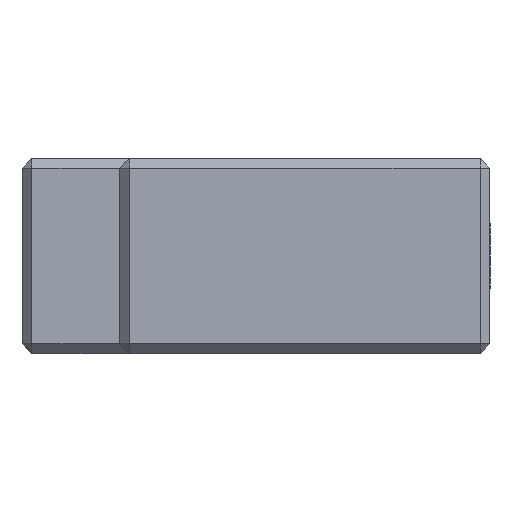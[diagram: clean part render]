
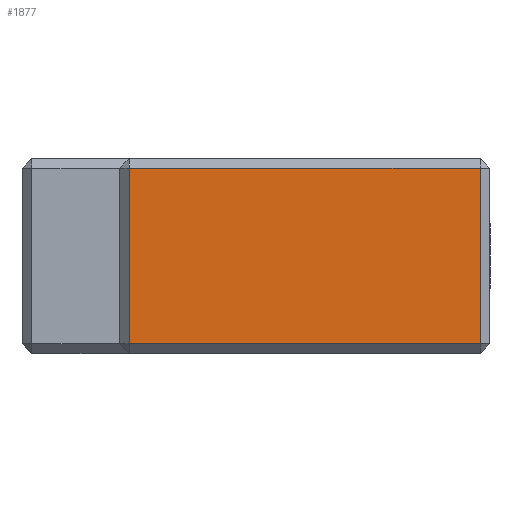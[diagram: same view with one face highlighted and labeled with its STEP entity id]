
A CAD part, left-side view. The second image highlights one B-rep face of the part: STEP entity #1877.
In plain terms, the highlighted planar face has unit normal (-1, 0, 0).
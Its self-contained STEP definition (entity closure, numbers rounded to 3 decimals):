
#99 = PLANE ( 'NONE',  #8385 ) ;
#560 = CARTESIAN_POINT ( 'NONE',  ( -25.22, 13.083, -9.5 ) ) ;
#772 = VECTOR ( 'NONE', #9338, 1000. ) ;
#1143 = DIRECTION ( 'NONE',  ( 0., 0., 1. ) ) ;
#1473 = DIRECTION ( 'NONE',  ( 0., -1., 0. ) ) ;
#1698 = CARTESIAN_POINT ( 'NONE',  ( -25.22, 13.083, -9.5 ) ) ;
#1760 = VECTOR ( 'NONE', #1143, 1000. ) ;
#1814 = CARTESIAN_POINT ( 'NONE',  ( -25.22, 49.083, -9.5 ) ) ;
#1877 = ADVANCED_FACE ( 'NONE', ( #2487 ), #99, .F. ) ;
#2063 = EDGE_LOOP ( 'NONE', ( #6809, #8924, #10771, #5865 ) ) ;
#2487 = FACE_OUTER_BOUND ( 'NONE', #2063, .T. ) ;
#2605 = CARTESIAN_POINT ( 'NONE',  ( -25.22, 13.083, -9.5 ) ) ;
#3524 = VERTEX_POINT ( 'NONE', #9211 ) ;
#4025 = CARTESIAN_POINT ( 'NONE',  ( -25.22, 49.083, 8.5 ) ) ;
#4500 = LINE ( 'NONE', #6057, #772 ) ;
#4695 = DIRECTION ( 'NONE',  ( 0., 1., 0. ) ) ;
#4891 = VERTEX_POINT ( 'NONE', #9473 ) ;
#5059 = DIRECTION ( 'NONE',  ( 0., 1., 0. ) ) ;
#5081 = EDGE_CURVE ( 'NONE', #4891, #3524, #9197, .T. ) ;
#5229 = EDGE_CURVE ( 'NONE', #9179, #4891, #5286, .T. ) ;
#5286 = LINE ( 'NONE', #9305, #1760 ) ;
#5363 = LINE ( 'NONE', #560, #6657 ) ;
#5865 = ORIENTED_EDGE ( 'NONE', *, *, #10646, .F. ) ;
#6057 = CARTESIAN_POINT ( 'NONE',  ( -25.22, 13.083, 8.5 ) ) ;
#6657 = VECTOR ( 'NONE', #4695, 1000. ) ;
#6809 = ORIENTED_EDGE ( 'NONE', *, *, #7946, .F. ) ;
#7946 = EDGE_CURVE ( 'NONE', #3524, #9549, #4500, .T. ) ;
#8385 = AXIS2_PLACEMENT_3D ( 'NONE', #2605, #10822, #5059 ) ;
#8924 = ORIENTED_EDGE ( 'NONE', *, *, #5081, .F. ) ;
#9179 = VERTEX_POINT ( 'NONE', #1814 ) ;
#9197 = LINE ( 'NONE', #4025, #9477 ) ;
#9211 = CARTESIAN_POINT ( 'NONE',  ( -25.22, 13.083, 8.5 ) ) ;
#9305 = CARTESIAN_POINT ( 'NONE',  ( -25.22, 49.083, -9.5 ) ) ;
#9338 = DIRECTION ( 'NONE',  ( 0., 0., -1. ) ) ;
#9473 = CARTESIAN_POINT ( 'NONE',  ( -25.22, 49.083, 8.5 ) ) ;
#9477 = VECTOR ( 'NONE', #1473, 1000. ) ;
#9549 = VERTEX_POINT ( 'NONE', #1698 ) ;
#10646 = EDGE_CURVE ( 'NONE', #9549, #9179, #5363, .T. ) ;
#10771 = ORIENTED_EDGE ( 'NONE', *, *, #5229, .F. ) ;
#10822 = DIRECTION ( 'NONE',  ( 1., 0., 0. ) ) ;
